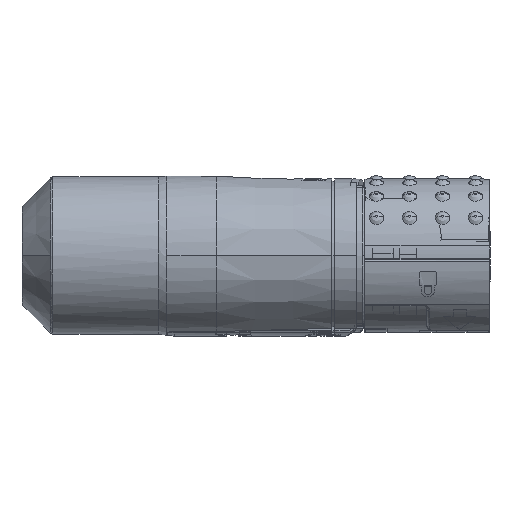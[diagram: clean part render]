
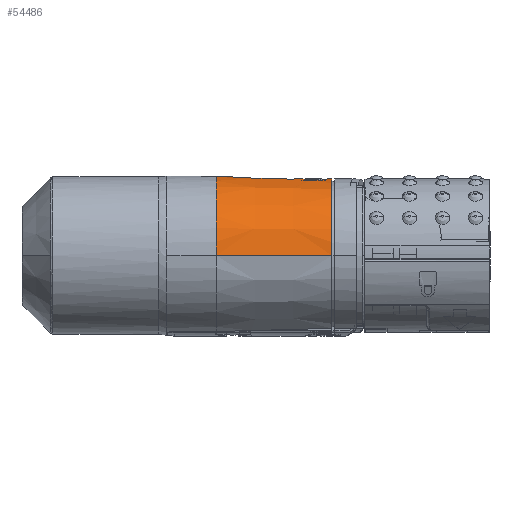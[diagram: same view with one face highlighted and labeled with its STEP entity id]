
A CAD part, top view. The second image highlights one B-rep face of the part: STEP entity #54486.
In plain terms, the highlighted conical face has half-angle 1.457 degrees and reference radius 10.86 mm.
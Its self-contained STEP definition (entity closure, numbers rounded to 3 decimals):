
#565 = CARTESIAN_POINT ( 'NONE',  ( 29.442, 10.329, 22.452 ) ) ;
#1054 = EDGE_LOOP ( 'NONE', ( #20885, #102270, #128819, #55736 ) ) ;
#1057 = CARTESIAN_POINT ( 'NONE',  ( 16., 0., 24.439 ) ) ;
#1207 = CARTESIAN_POINT ( 'NONE',  ( 29.699, 10.332, 22.503 ) ) ;
#2650 = AXIS2_PLACEMENT_3D ( 'NONE', #54879, #45095, #77053 ) ;
#4850 = CARTESIAN_POINT ( 'NONE',  ( 27.182, 10.576, 24.439 ) ) ;
#5503 = CARTESIAN_POINT ( 'NONE',  ( 28.917, 10.34, 26.439 ) ) ;
#6128 = CARTESIAN_POINT ( 'NONE',  ( 28.176, 10.407, 26.173 ) ) ;
#6992 = EDGE_CURVE ( 'NONE', #121428, #22614, #32081, .T. ) ;
#8356 = VERTEX_POINT ( 'NONE', #19199 ) ;
#9099 = CARTESIAN_POINT ( 'NONE',  ( 28.178, 10.407, 22.704 ) ) ;
#9752 = CARTESIAN_POINT ( 'NONE',  ( 27.583, 10.495, 23.21 ) ) ;
#10374 = CARTESIAN_POINT ( 'NONE',  ( 29.312, 10.33, 22.439 ) ) ;
#11026 = CARTESIAN_POINT ( 'NONE',  ( 27.195, 10.573, 24.178 ) ) ;
#13991 = CARTESIAN_POINT ( 'NONE',  ( 31.117, 10.463, 24.96 ) ) ;
#14465 = B_SPLINE_CURVE_WITH_KNOTS ( 'NONE', 3,
 ( #21421, #39103, #11026, #41650, #90606, #99140, #9752, #79551, #31844, #9099, #30558, #48932, #22060, #10374, #565, #1207, #128422, #101040, #51471, #119324, #69766, #80197, #121231, #71683, #78933, #110247, #20782, #20160 ),
 .UNSPECIFIED., .F., .F.,
 ( 4, 2, 2, 2, 2, 2, 2, 2, 2, 2, 2, 2, 2, 4 ),
 ( 0.011, 0.011, 0.012, 0.012, 0.013, 0.013, 0.014, 0.014, 0.015, 0.015, 0.015, 0.016, 0.017, 0.017 ),
 .UNSPECIFIED. ) ;
#15090 = EDGE_CURVE ( 'NONE', #100645, #22614, #70928, .T. ) ;
#15191 = CARTESIAN_POINT ( 'NONE',  ( 16., 0., 35.299 ) ) ;
#15275 = CARTESIAN_POINT ( 'NONE',  ( 31.079, 10.457, 25.085 ) ) ;
#15916 = CARTESIAN_POINT ( 'NONE',  ( 27.447, 10.522, 25.442 ) ) ;
#19199 = CARTESIAN_POINT ( 'NONE',  ( 27.182, 10.576, 24.439 ) ) ;
#20160 = CARTESIAN_POINT ( 'NONE',  ( 31.182, 10.474, 24.439 ) ) ;
#20782 = CARTESIAN_POINT ( 'NONE',  ( 31.182, 10.474, 24.308 ) ) ;
#20885 = ORIENTED_EDGE ( 'NONE', *, *, #43179, .F. ) ;
#20978 = AXIS2_PLACEMENT_3D ( 'NONE', #66937, #69499, #41395 ) ;
#21421 = CARTESIAN_POINT ( 'NONE',  ( 27.182, 10.576, 24.439 ) ) ;
#22060 = CARTESIAN_POINT ( 'NONE',  ( 28.916, 10.34, 22.44 ) ) ;
#22614 = VERTEX_POINT ( 'NONE', #98173 ) ;
#25047 = CARTESIAN_POINT ( 'NONE',  ( 30.501, 10.383, 25.948 ) ) ;
#25692 = CARTESIAN_POINT ( 'NONE',  ( 30.401, 10.373, 26.031 ) ) ;
#29269 = EDGE_CURVE ( 'NONE', #119942, #8356, #55821, .T. ) ;
#30539 = CARTESIAN_POINT ( 'NONE',  ( 31.182, 10.474, 24.439 ) ) ;
#30558 = CARTESIAN_POINT ( 'NONE',  ( 28.293, 10.393, 22.643 ) ) ;
#31844 = CARTESIAN_POINT ( 'NONE',  ( 27.962, 10.436, 22.849 ) ) ;
#32081 = LINE ( 'NONE', #33359, #63410 ) ;
#33359 = CARTESIAN_POINT ( 'NONE',  ( 16., 0., 13.579 ) ) ;
#37255 = CARTESIAN_POINT ( 'NONE',  ( 31.73, 0., 13.979 ) ) ;
#39103 = CARTESIAN_POINT ( 'NONE',  ( 27.182, 10.576, 24.308 ) ) ;
#41395 = DIRECTION ( 'NONE',  ( 0., 0., 1. ) ) ;
#41650 = CARTESIAN_POINT ( 'NONE',  ( 27.246, 10.562, 23.921 ) ) ;
#43179 = EDGE_CURVE ( 'NONE', #127636, #100645, #45239, .T. ) ;
#44018 = CARTESIAN_POINT ( 'NONE',  ( 29.699, 10.332, 26.376 ) ) ;
#44674 = CARTESIAN_POINT ( 'NONE',  ( 30.78, 10.413, 25.67 ) ) ;
#45095 = DIRECTION ( 'NONE',  ( -1., 0., 0. ) ) ;
#45239 = LINE ( 'NONE', #15191, #47410 ) ;
#45323 = CARTESIAN_POINT ( 'NONE',  ( 28.293, 10.393, 26.236 ) ) ;
#45979 = CARTESIAN_POINT ( 'NONE',  ( 31.73, 0., 34.899 ) ) ;
#47410 = VECTOR ( 'NONE', #102184, 1000. ) ;
#48932 = CARTESIAN_POINT ( 'NONE',  ( 28.656, 10.357, 22.492 ) ) ;
#50677 = FACE_OUTER_BOUND ( 'NONE', #1054, .T. ) ;
#51471 = CARTESIAN_POINT ( 'NONE',  ( 30.183, 10.355, 22.703 ) ) ;
#53812 = CARTESIAN_POINT ( 'NONE',  ( 27.675, 10.481, 25.761 ) ) ;
#54462 = CARTESIAN_POINT ( 'NONE',  ( 27.182, 10.576, 24.703 ) ) ;
#54486 = ADVANCED_FACE ( 'NONE', ( #50677, #90461 ), #92689, .T. ) ;
#54879 = CARTESIAN_POINT ( 'NONE',  ( 31.73, 0., 24.439 ) ) ;
#55125 = CARTESIAN_POINT ( 'NONE',  ( 29.309, 10.33, 26.44 ) ) ;
#55736 = ORIENTED_EDGE ( 'NONE', *, *, #15090, .F. ) ;
#55821 = B_SPLINE_CURVE_WITH_KNOTS ( 'NONE', 3,
 ( #61051, #64905, #105996, #13991, #15275, #94252, #44674, #25047, #25692, #124218, #76010, #104716, #44018, #124848, #55125, #5503, #94911, #45323, #6128, #85743, #65570, #53812, #93592, #15916, #115790, #125505, #54462, #4850 ),
 .UNSPECIFIED., .F., .F.,
 ( 4, 2, 2, 2, 2, 2, 2, 2, 2, 2, 2, 2, 2, 4 ),
 ( 0.005, 0.005, 0.005, 0.006, 0.006, 0.007, 0.007, 0.008, 0.008, 0.009, 0.009, 0.01, 0.01, 0.011 ),
 .UNSPECIFIED. ) ;
#61051 = CARTESIAN_POINT ( 'NONE',  ( 31.182, 10.474, 24.439 ) ) ;
#63410 = VECTOR ( 'NONE', #103219, 1000. ) ;
#64905 = CARTESIAN_POINT ( 'NONE',  ( 31.182, 10.474, 24.57 ) ) ;
#65570 = CARTESIAN_POINT ( 'NONE',  ( 27.859, 10.451, 25.946 ) ) ;
#66937 = CARTESIAN_POINT ( 'NONE',  ( 16., 0., 24.439 ) ) ;
#69499 = DIRECTION ( 'NONE',  ( -1., 0., 0. ) ) ;
#69766 = CARTESIAN_POINT ( 'NONE',  ( 30.504, 10.383, 22.933 ) ) ;
#70928 = CIRCLE ( 'NONE', #20978, 10.86 ) ;
#71683 = CARTESIAN_POINT ( 'NONE',  ( 31.079, 10.457, 23.794 ) ) ;
#76010 = CARTESIAN_POINT ( 'NONE',  ( 30.066, 10.347, 26.238 ) ) ;
#77053 = DIRECTION ( 'NONE',  ( 0., 0., -1. ) ) ;
#78933 = CARTESIAN_POINT ( 'NONE',  ( 31.118, 10.464, 23.921 ) ) ;
#79551 = CARTESIAN_POINT ( 'NONE',  ( 27.86, 10.451, 22.933 ) ) ;
#80197 = CARTESIAN_POINT ( 'NONE',  ( 30.78, 10.413, 23.209 ) ) ;
#85743 = CARTESIAN_POINT ( 'NONE',  ( 27.96, 10.436, 26.028 ) ) ;
#90461 = FACE_BOUND ( 'NONE', #91885, .T. ) ;
#90606 = CARTESIAN_POINT ( 'NONE',  ( 27.284, 10.554, 23.794 ) ) ;
#91094 = DIRECTION ( 'NONE',  ( 0., 0., -1. ) ) ;
#91885 = EDGE_LOOP ( 'NONE', ( #120140, #127920 ) ) ;
#92689 = CONICAL_SURFACE ( 'NONE', #103154, 10.86, 0.025 ) ;
#93592 = CARTESIAN_POINT ( 'NONE',  ( 27.591, 10.495, 25.659 ) ) ;
#94252 = CARTESIAN_POINT ( 'NONE',  ( 30.928, 10.434, 25.449 ) ) ;
#94911 = CARTESIAN_POINT ( 'NONE',  ( 28.654, 10.357, 26.386 ) ) ;
#98173 = CARTESIAN_POINT ( 'NONE',  ( 16., 0., 13.579 ) ) ;
#99140 = CARTESIAN_POINT ( 'NONE',  ( 27.435, 10.524, 23.432 ) ) ;
#100645 = VERTEX_POINT ( 'NONE', #103690 ) ;
#101040 = CARTESIAN_POINT ( 'NONE',  ( 30.068, 10.347, 22.642 ) ) ;
#102184 = DIRECTION ( 'NONE',  ( -1., 0., 0.025 ) ) ;
#102270 = ORIENTED_EDGE ( 'NONE', *, *, #110202, .T. ) ;
#103154 = AXIS2_PLACEMENT_3D ( 'NONE', #1057, #111374, #91094 ) ;
#103219 = DIRECTION ( 'NONE',  ( -1., 0., -0.025 ) ) ;
#103690 = CARTESIAN_POINT ( 'NONE',  ( 16., 0., 35.299 ) ) ;
#104716 = CARTESIAN_POINT ( 'NONE',  ( 29.824, 10.336, 26.338 ) ) ;
#105996 = CARTESIAN_POINT ( 'NONE',  ( 31.169, 10.472, 24.703 ) ) ;
#110202 = EDGE_CURVE ( 'NONE', #127636, #121428, #117247, .T. ) ;
#110247 = CARTESIAN_POINT ( 'NONE',  ( 31.169, 10.472, 24.178 ) ) ;
#111374 = DIRECTION ( 'NONE',  ( -1., 0., 0. ) ) ;
#115790 = CARTESIAN_POINT ( 'NONE',  ( 27.385, 10.534, 25.328 ) ) ;
#117247 = CIRCLE ( 'NONE', #2650, 10.46 ) ;
#119324 = CARTESIAN_POINT ( 'NONE',  ( 30.401, 10.373, 22.849 ) ) ;
#119942 = VERTEX_POINT ( 'NONE', #30539 ) ;
#120140 = ORIENTED_EDGE ( 'NONE', *, *, #128628, .T. ) ;
#121231 = CARTESIAN_POINT ( 'NONE',  ( 30.929, 10.435, 23.432 ) ) ;
#121428 = VERTEX_POINT ( 'NONE', #37255 ) ;
#124218 = CARTESIAN_POINT ( 'NONE',  ( 30.183, 10.355, 26.175 ) ) ;
#124848 = CARTESIAN_POINT ( 'NONE',  ( 29.441, 10.329, 26.427 ) ) ;
#125505 = CARTESIAN_POINT ( 'NONE',  ( 27.234, 10.564, 24.963 ) ) ;
#127636 = VERTEX_POINT ( 'NONE', #45979 ) ;
#127920 = ORIENTED_EDGE ( 'NONE', *, *, #29269, .T. ) ;
#128422 = CARTESIAN_POINT ( 'NONE',  ( 29.826, 10.336, 22.542 ) ) ;
#128628 = EDGE_CURVE ( 'NONE', #8356, #119942, #14465, .T. ) ;
#128819 = ORIENTED_EDGE ( 'NONE', *, *, #6992, .T. ) ;
